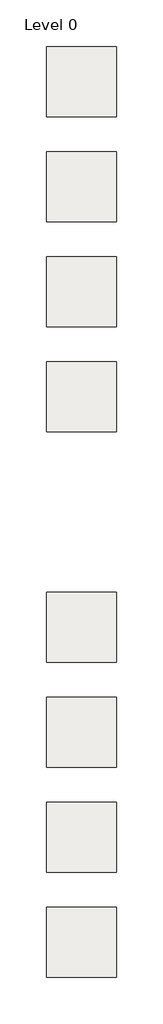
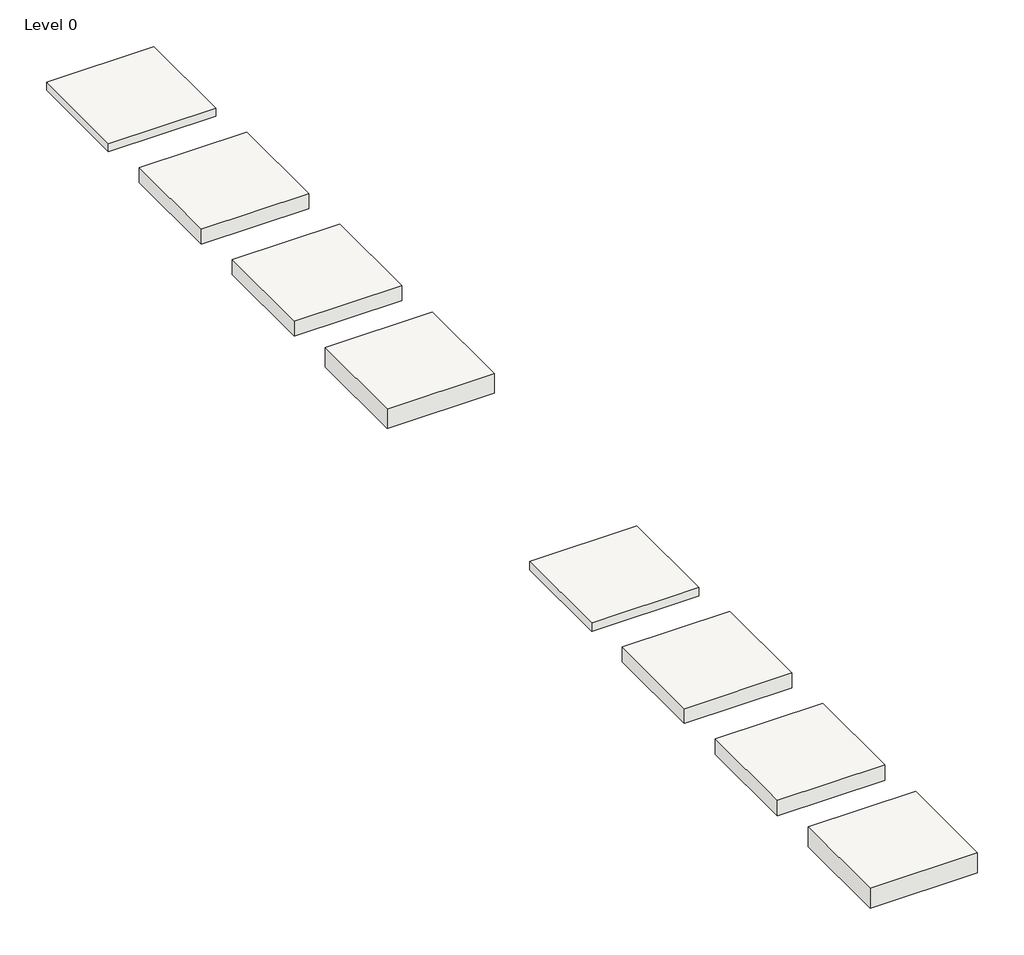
# One storey: 8 roofs.
"""IFC4 building model written with IfcOpenShell, lengths in millimetres."""

from ifc_helpers import new_model, si_unit, origin, origin_with_axes, place, context, project, spatial, polyline, outline, extrude, element, save

model = new_model("IFC4")

# Units and contexts
model_context = context("Model", 3, world=origin())
ifc_project = project(units=[si_unit("LENGTHUNIT", "METRE", prefix="MILLI")], contexts=[model_context])

# Site, building, storey
site = spatial("IfcSite", under=ifc_project)
building = spatial("IfcBuilding", under=site)
storey = spatial("IfcBuildingStorey", under=building, Name="Level 0", Elevation=0.0)

# Roofs
placement = place(None, origin())
element("IfcRoof", 1, ObjectType="IKO_FlatRoofSystems_UPXL_GuardianWarm", at=placement, inside=storey, context=model_context, shape_type="SweptSolid", body=[
    extrude(outline(polyline([(-15885.2296761, 12993.1024107), (-13885.2296761, 12993.1024107), (-13885.2296761, 10993.1024107), (-15885.2296761, 10993.1024107), (-15885.2296761, 12993.1024107)])), origin_with_axes(), (0.0, 0.0, 1.0), 161.6),
])
element("IfcRoof", 2, ObjectType="IKO_FlatRoofSystems_UPXL_GuardianWarm_BiodiverseBrown", at=placement, inside=storey, context=model_context, shape_type="SweptSolid", body=[
    extrude(outline(polyline([(-15885.2296761, 9993.1024107), (-13885.2296761, 9993.1024107), (-13885.2296761, 7993.1024107), (-15885.2296761, 7993.1024107), (-15885.2296761, 9993.1024107)])), origin_with_axes(), (0.0, 0.0, 1.0), 291.6),
])
element("IfcRoof", 3, ObjectType="IKO_FlatRoofSystems_UPXL_GuardianWarm_ExtensiveGreen", at=placement, inside=storey, context=model_context, shape_type="SweptSolid", body=[
    extrude(outline(polyline([(-15885.2296761, 6993.1024107), (-13885.2296761, 6993.1024107), (-13885.2296761, 4993.1024107), (-15885.2296761, 4993.1024107), (-15885.2296761, 6993.1024107)])), origin_with_axes(), (0.0, 0.0, 1.0), 301.6),
])
element("IfcRoof", 4, ObjectType="IKO_FlatRoofSystems_UPXL_GuardianWarm_IntensiveGreen", at=placement, inside=storey, context=model_context, shape_type="SweptSolid", body=[
    extrude(outline(polyline([(-15885.2296761, 3993.1024107), (-13885.2296761, 3993.1024107), (-13885.2296761, 1993.1024107), (-15885.2296761, 1993.1024107), (-15885.2296761, 3993.1024107)])), origin_with_axes(), (0.0, 0.0, 1.0), 383.2),
])
element("IfcRoof", 5, ObjectType="IKO_FlatRoofSystems_UPXL_TorchFreeWarm", at=placement, inside=storey, context=model_context, shape_type="SweptSolid", body=[
    extrude(outline(polyline([(-15885.2296761, -2606.8975893), (-13885.2296761, -2606.8975893), (-13885.2296761, -4606.8975893), (-15885.2296761, -4606.8975893), (-15885.2296761, -2606.8975893)])), origin_with_axes(), (0.0, 0.0, 1.0), 164.8),
])
element("IfcRoof", 6, ObjectType="IKO_FlatRoofSystems_UPXL_TorchFreeWarm_BiodiverseBrown", at=placement, inside=storey, context=model_context, shape_type="SweptSolid", body=[
    extrude(outline(polyline([(-15885.2296761, -5606.8975893), (-13885.2296761, -5606.8975893), (-13885.2296761, -7606.8975893), (-15885.2296761, -7606.8975893), (-15885.2296761, -5606.8975893)])), origin_with_axes(), (0.0, 0.0, 1.0), 294.8),
])
element("IfcRoof", 7, ObjectType="IKO_FlatRoofSystems_UPXL_TorchFreeWarm_ExtensiveGreen", at=placement, inside=storey, context=model_context, shape_type="SweptSolid", body=[
    extrude(outline(polyline([(-15885.2296761, -8606.8975893), (-13885.2296761, -8606.8975893), (-13885.2296761, -10606.8975893), (-15885.2296761, -10606.8975893), (-15885.2296761, -8606.8975893)])), origin_with_axes(), (0.0, 0.0, 1.0), 304.8),
])
element("IfcRoof", 8, ObjectType="IKO_FlatRoofSystems_UPXL_TorchFreeWarm_IntensiveGreen", at=placement, inside=storey, context=model_context, shape_type="SweptSolid", body=[
    extrude(outline(polyline([(-15885.2296761, -11606.8975893), (-13885.2296761, -11606.8975893), (-13885.2296761, -13606.8975893), (-15885.2296761, -13606.8975893), (-15885.2296761, -11606.8975893)])), origin_with_axes(), (0.0, 0.0, 1.0), 386.4),
])

save(model, "model.ifc")
